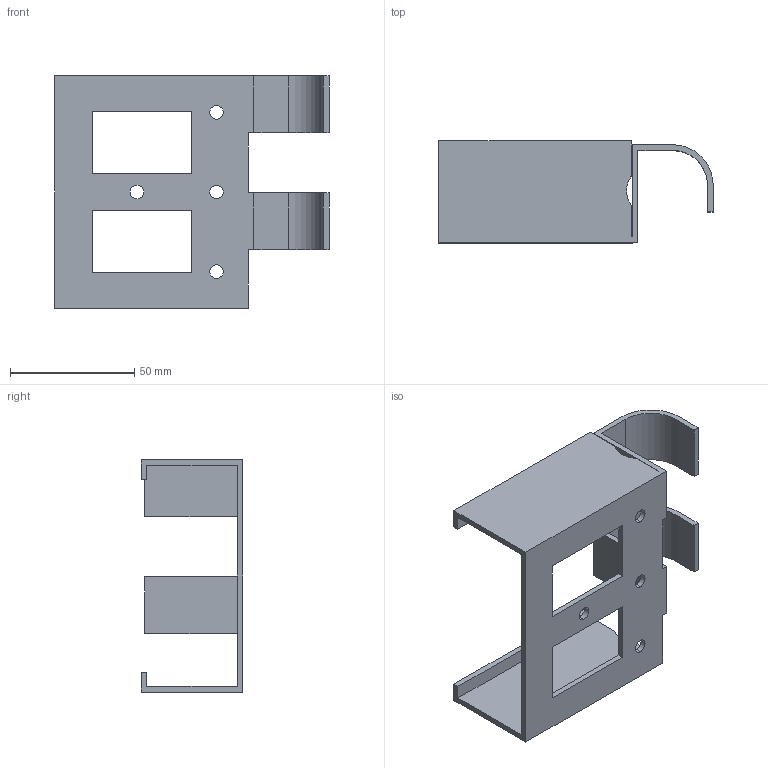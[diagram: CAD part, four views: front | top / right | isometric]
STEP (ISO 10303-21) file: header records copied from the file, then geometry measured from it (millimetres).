
FILE_DESCRIPTION (( 'STEP AP214' ), '1' );
FILE_NAME ('JB-508W.step', '2024-01-17T00:58:46', ( 'catia' ), ( 'HP Inc.' ), 'SwSTEP 2.0', 'SolidWorks 2021', '' );
FILE_SCHEMA (( 'AUTOMOTIVE_DESIGN' ));
Length unit declared in the file: millimetre
Products named in the file (1): JB-508W
Bounding box: 110.3 x 40.9 x 93.4 mm (x, y, z)
Volume: 36849.8 mm3; surface area: 34807.6 mm2
Topology: 1 solids, 1 shells, 58 faces, 165 edges, 109 vertices
Faces by surface type: plane 44, cylinder 14
Entity records: 1931 total; most frequent: CARTESIAN_POINT 333, ORIENTED_EDGE 330, DIRECTION 311, EDGE_CURVE 165, LINE 137, VECTOR 137, VERTEX_POINT 109, AXIS2_PLACEMENT_3D 87
